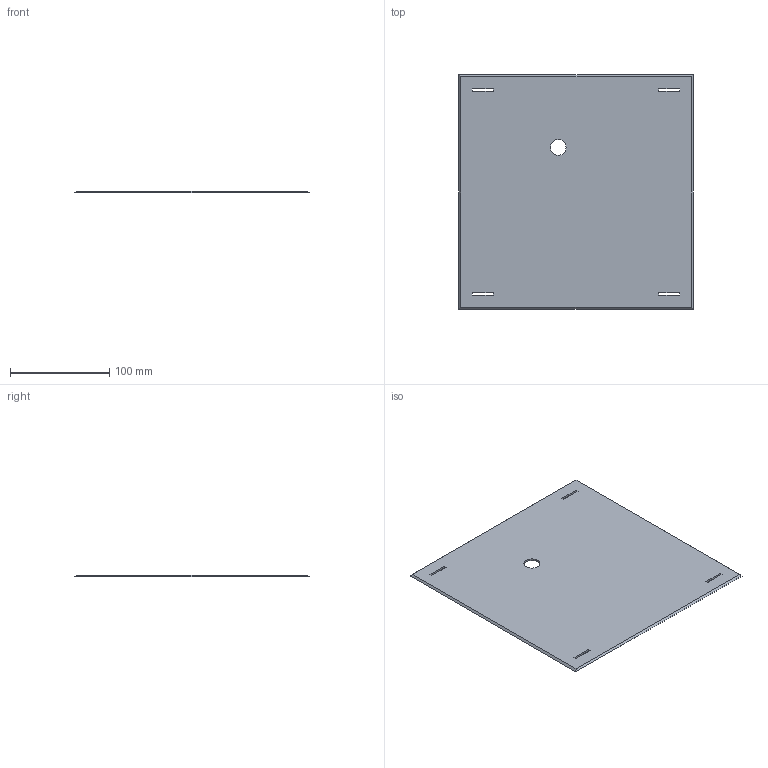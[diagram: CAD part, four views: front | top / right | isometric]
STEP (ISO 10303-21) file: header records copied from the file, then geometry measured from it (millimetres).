
FILE_DESCRIPTION (( 'STEP AP214' ), '1' );
FILE_NAME ('SC70.STEP', '2016-02-27T08:08:55', ( '' ), ( '' ), 'SwSTEP 2.0', 'SolidWorks 2012', '' );
FILE_SCHEMA (( 'AUTOMOTIVE_DESIGN' ));
Length unit declared in the file: millimetre
Products named in the file (1): SC70
Bounding box: 237 x 237 x 2 mm (x, y, z)
Volume: 109647.3 mm3; surface area: 112786.3 mm2
Topology: 1 solids, 1 shells, 24 faces, 66 edges, 44 vertices
Faces by surface type: plane 22, cylinder 2
Entity records: 808 total; most frequent: CARTESIAN_POINT 135, ORIENTED_EDGE 132, DIRECTION 120, EDGE_CURVE 66, VECTOR 62, LINE 62, VERTEX_POINT 44, EDGE_LOOP 34
